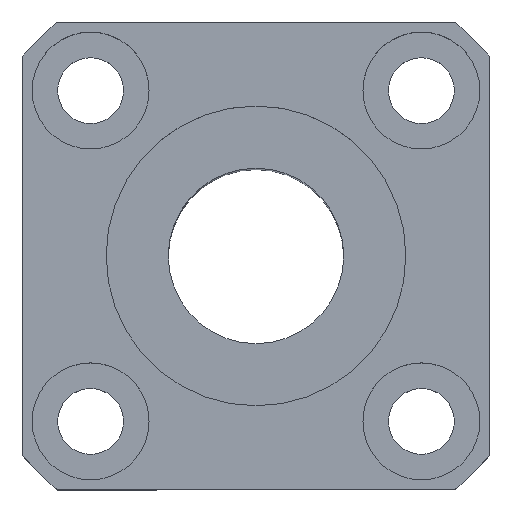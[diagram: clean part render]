
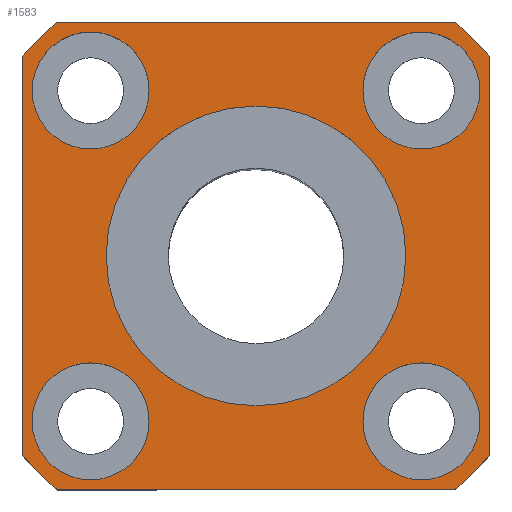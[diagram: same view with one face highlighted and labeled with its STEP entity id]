
A CAD part, top view. The second image highlights one B-rep face of the part: STEP entity #1583.
In plain terms, the highlighted planar face has unit normal (0, 0, 1).
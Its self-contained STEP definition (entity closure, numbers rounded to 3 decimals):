
#133=CARTESIAN_POINT('',(-10.25,0.,57.0));
#134=VERTEX_POINT('',#133);
#143=CARTESIAN_POINT('',(10.25,0.,57.0));
#144=VERTEX_POINT('',#143);
#145=CARTESIAN_POINT('',(0.0,0.0,57.0));
#146=DIRECTION('',(0.0,0.0,-1.0));
#147=DIRECTION('',(-1.0,0.0,0.0));
#148=AXIS2_PLACEMENT_3D('',#145,#146,#147);
#149=CIRCLE('',#148,10.25);
#150=EDGE_CURVE('',#144,#134,#149,.T.);
#303=CARTESIAN_POINT('',(-7.314,11.314,57.0));
#304=VERTEX_POINT('',#303);
#320=CARTESIAN_POINT('',(-15.314,11.314,57.0));
#321=VERTEX_POINT('',#320);
#328=CARTESIAN_POINT('',(-11.314,11.314,57.0));
#329=DIRECTION('',(0.0,0.0,-1.0));
#330=DIRECTION('',(1.0,0.0,0.0));
#331=AXIS2_PLACEMENT_3D('',#328,#329,#330);
#332=CIRCLE('',#331,4.0);
#333=EDGE_CURVE('',#304,#321,#332,.T.);
#429=CARTESIAN_POINT('',(-11.314,-7.314,57.0));
#430=VERTEX_POINT('',#429);
#446=CARTESIAN_POINT('',(-11.314,-15.314,57.0));
#447=VERTEX_POINT('',#446);
#454=CARTESIAN_POINT('',(-11.314,-11.314,57.0));
#455=DIRECTION('',(0.0,0.0,-1.0));
#456=DIRECTION('',(0.0,1.0,0.0));
#457=AXIS2_PLACEMENT_3D('',#454,#455,#456);
#458=CIRCLE('',#457,4.0);
#459=EDGE_CURVE('',#430,#447,#458,.T.);
#555=CARTESIAN_POINT('',(7.314,-11.314,57.0));
#556=VERTEX_POINT('',#555);
#572=CARTESIAN_POINT('',(15.314,-11.314,57.0));
#573=VERTEX_POINT('',#572);
#580=CARTESIAN_POINT('',(11.314,-11.314,57.0));
#581=DIRECTION('',(0.0,0.0,-1.0));
#582=DIRECTION('',(-1.0,0.0,0.0));
#583=AXIS2_PLACEMENT_3D('',#580,#581,#582);
#584=CIRCLE('',#583,4.0);
#585=EDGE_CURVE('',#556,#573,#584,.T.);
#681=CARTESIAN_POINT('',(11.314,7.314,57.0));
#682=VERTEX_POINT('',#681);
#698=CARTESIAN_POINT('',(11.314,15.314,57.0));
#699=VERTEX_POINT('',#698);
#706=CARTESIAN_POINT('',(11.314,11.314,57.0));
#707=DIRECTION('',(0.0,0.0,-1.0));
#708=DIRECTION('',(0.0,-1.0,0.0));
#709=AXIS2_PLACEMENT_3D('',#706,#707,#708);
#710=CIRCLE('',#709,4.0);
#711=EDGE_CURVE('',#682,#699,#710,.T.);
#769=CARTESIAN_POINT('',(11.314,11.314,57.0));
#770=DIRECTION('',(0.0,0.0,-1.0));
#771=DIRECTION('',(0.0,-1.0,0.0));
#772=AXIS2_PLACEMENT_3D('',#769,#770,#771);
#773=CIRCLE('',#772,4.0);
#774=EDGE_CURVE('',#699,#682,#773,.T.);
#873=CARTESIAN_POINT('',(11.314,-11.314,57.0));
#874=DIRECTION('',(0.0,0.0,-1.0));
#875=DIRECTION('',(-1.0,0.0,0.0));
#876=AXIS2_PLACEMENT_3D('',#873,#874,#875);
#877=CIRCLE('',#876,4.0);
#878=EDGE_CURVE('',#573,#556,#877,.T.);
#977=CARTESIAN_POINT('',(-11.314,-11.314,57.0));
#978=DIRECTION('',(0.0,0.0,-1.0));
#979=DIRECTION('',(0.0,1.0,0.0));
#980=AXIS2_PLACEMENT_3D('',#977,#978,#979);
#981=CIRCLE('',#980,4.0);
#982=EDGE_CURVE('',#447,#430,#981,.T.);
#1081=CARTESIAN_POINT('',(-11.314,11.314,57.0));
#1082=DIRECTION('',(0.0,0.0,-1.0));
#1083=DIRECTION('',(1.0,0.0,0.0));
#1084=AXIS2_PLACEMENT_3D('',#1081,#1082,#1083);
#1085=CIRCLE('',#1084,4.0);
#1086=EDGE_CURVE('',#321,#304,#1085,.T.);
#1147=CARTESIAN_POINT('',(-16.,-13.601,57.0));
#1148=VERTEX_POINT('',#1147);
#1155=CARTESIAN_POINT('',(-16.,13.601,57.0));
#1156=VERTEX_POINT('',#1155);
#1157=CARTESIAN_POINT('',(-16.,13.601,57.0));
#1158=DIRECTION('',(0.0,-1.0,0.0));
#1159=VECTOR('',#1158,27.203);
#1160=LINE('',#1157,#1159);
#1161=EDGE_CURVE('',#1156,#1148,#1160,.T.);
#1186=CARTESIAN_POINT('',(-13.601,-16.,57.0));
#1187=VERTEX_POINT('',#1186);
#1194=CARTESIAN_POINT('',(0.0,0.0,57.0));
#1195=DIRECTION('',(0.0,0.0,1.0));
#1196=DIRECTION('',(1.0,0.0,0.0));
#1197=AXIS2_PLACEMENT_3D('',#1194,#1195,#1196);
#1198=CIRCLE('',#1197,21.0);
#1199=EDGE_CURVE('',#1148,#1187,#1198,.T.);
#1218=CARTESIAN_POINT('',(13.601,-16.,57.0));
#1219=VERTEX_POINT('',#1218);
#1226=CARTESIAN_POINT('',(-13.601,-16.,57.0));
#1227=DIRECTION('',(1.0,0.0,0.0));
#1228=VECTOR('',#1227,27.203);
#1229=LINE('',#1226,#1228);
#1230=EDGE_CURVE('',#1187,#1219,#1229,.T.);
#1250=CARTESIAN_POINT('',(16.0,-13.601,57.0));
#1251=VERTEX_POINT('',#1250);
#1258=CARTESIAN_POINT('',(0.0,0.0,57.0));
#1259=DIRECTION('',(0.0,0.0,1.0));
#1260=DIRECTION('',(1.0,0.0,0.0));
#1261=AXIS2_PLACEMENT_3D('',#1258,#1259,#1260);
#1262=CIRCLE('',#1261,21.0);
#1263=EDGE_CURVE('',#1219,#1251,#1262,.T.);
#1282=CARTESIAN_POINT('',(16.0,13.601,57.0));
#1283=VERTEX_POINT('',#1282);
#1290=CARTESIAN_POINT('',(16.0,-13.601,57.0));
#1291=DIRECTION('',(0.0,1.0,0.0));
#1292=VECTOR('',#1291,27.203);
#1293=LINE('',#1290,#1292);
#1294=EDGE_CURVE('',#1251,#1283,#1293,.T.);
#1314=CARTESIAN_POINT('',(13.601,16.0,57.0));
#1315=VERTEX_POINT('',#1314);
#1322=CARTESIAN_POINT('',(0.0,0.0,57.0));
#1323=DIRECTION('',(0.0,0.0,1.0));
#1324=DIRECTION('',(1.0,0.0,0.0));
#1325=AXIS2_PLACEMENT_3D('',#1322,#1323,#1324);
#1326=CIRCLE('',#1325,21.0);
#1327=EDGE_CURVE('',#1283,#1315,#1326,.T.);
#1346=CARTESIAN_POINT('',(-13.601,16.0,57.0));
#1347=VERTEX_POINT('',#1346);
#1354=CARTESIAN_POINT('',(13.601,16.0,57.0));
#1355=DIRECTION('',(-1.0,0.0,0.0));
#1356=VECTOR('',#1355,27.203);
#1357=LINE('',#1354,#1356);
#1358=EDGE_CURVE('',#1315,#1347,#1357,.T.);
#1377=CARTESIAN_POINT('',(0.0,0.0,57.0));
#1378=DIRECTION('',(0.0,0.0,1.0));
#1379=DIRECTION('',(1.0,0.0,0.0));
#1380=AXIS2_PLACEMENT_3D('',#1377,#1378,#1379);
#1381=CIRCLE('',#1380,21.0);
#1382=EDGE_CURVE('',#1347,#1156,#1381,.T.);
#1502=CARTESIAN_POINT('',(0.0,0.0,57.0));
#1503=DIRECTION('',(0.0,0.0,-1.0));
#1504=DIRECTION('',(-1.0,0.0,0.0));
#1505=AXIS2_PLACEMENT_3D('',#1502,#1503,#1504);
#1506=CIRCLE('',#1505,10.25);
#1507=EDGE_CURVE('',#134,#144,#1506,.T.);
#1548=CARTESIAN_POINT('',(0.0,0.0,57.0));
#1549=DIRECTION('',(0.0,0.0,-1.0));
#1550=DIRECTION('',(-1.0,0.0,0.0));
#1551=AXIS2_PLACEMENT_3D('',#1548,#1549,#1550);
#1552=PLANE('',#1551);
#1553=ORIENTED_EDGE('',*,*,#1382,.T.);
#1554=ORIENTED_EDGE('',*,*,#1161,.T.);
#1555=ORIENTED_EDGE('',*,*,#1199,.T.);
#1556=ORIENTED_EDGE('',*,*,#1230,.T.);
#1557=ORIENTED_EDGE('',*,*,#1263,.T.);
#1558=ORIENTED_EDGE('',*,*,#1294,.T.);
#1559=ORIENTED_EDGE('',*,*,#1327,.T.);
#1560=ORIENTED_EDGE('',*,*,#1358,.T.);
#1561=EDGE_LOOP('',(#1553,#1554,#1555,#1556,#1557,#1558,#1559,#1560));
#1562=FACE_OUTER_BOUND('',#1561,.T.);
#1563=ORIENTED_EDGE('',*,*,#711,.T.);
#1564=ORIENTED_EDGE('',*,*,#774,.T.);
#1565=EDGE_LOOP('',(#1563,#1564));
#1566=FACE_BOUND('',#1565,.T.);
#1567=ORIENTED_EDGE('',*,*,#585,.T.);
#1568=ORIENTED_EDGE('',*,*,#878,.T.);
#1569=EDGE_LOOP('',(#1567,#1568));
#1570=FACE_BOUND('',#1569,.T.);
#1571=ORIENTED_EDGE('',*,*,#459,.T.);
#1572=ORIENTED_EDGE('',*,*,#982,.T.);
#1573=EDGE_LOOP('',(#1571,#1572));
#1574=FACE_BOUND('',#1573,.T.);
#1575=ORIENTED_EDGE('',*,*,#333,.T.);
#1576=ORIENTED_EDGE('',*,*,#1086,.T.);
#1577=EDGE_LOOP('',(#1575,#1576));
#1578=FACE_BOUND('',#1577,.T.);
#1579=ORIENTED_EDGE('',*,*,#150,.T.);
#1580=ORIENTED_EDGE('',*,*,#1507,.T.);
#1581=EDGE_LOOP('',(#1579,#1580));
#1582=FACE_BOUND('',#1581,.T.);
#1583=ADVANCED_FACE('',(#1562,#1566,#1570,#1574,#1578,#1582),#1552,.F.);
